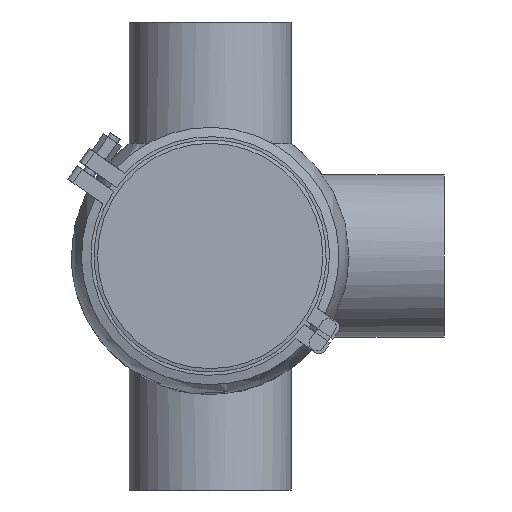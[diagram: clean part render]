
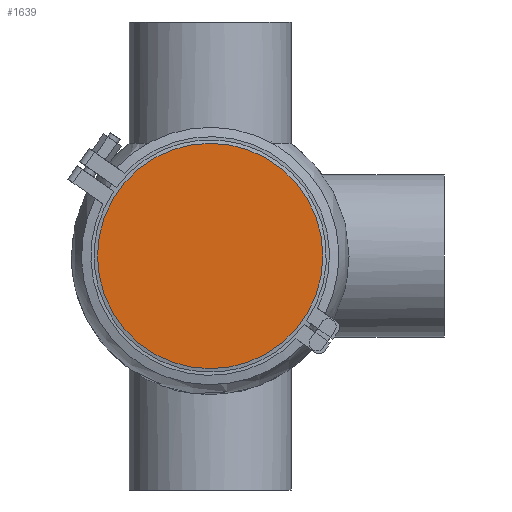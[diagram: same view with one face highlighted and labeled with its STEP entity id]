
A CAD part, front view. The second image highlights one B-rep face of the part: STEP entity #1639.
In plain terms, the highlighted planar face has unit normal (0, -1, 0).
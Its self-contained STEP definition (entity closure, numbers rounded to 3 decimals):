
#232 = DIRECTION ( 'NONE',  ( 0., -1., 0. ) ) ;
#337 = DIRECTION ( 'NONE',  ( 0., 0., -1. ) ) ;
#1639 = ADVANCED_FACE ( 'NONE', ( #15395 ), #20381, .T. ) ;
#2853 = EDGE_LOOP ( 'NONE', ( #20189 ) ) ;
#7805 = DIRECTION ( 'NONE',  ( 0., 0., 1. ) ) ;
#9387 = AXIS2_PLACEMENT_3D ( 'NONE', #9651, #11380, #7805 ) ;
#9651 = CARTESIAN_POINT ( 'NONE',  ( 0., 0., 0. ) ) ;
#11380 = DIRECTION ( 'NONE',  ( 0., 1., 0. ) ) ;
#12606 = EDGE_CURVE ( 'NONE', #15195, #15195, #19070, .T. ) ;
#13772 = CARTESIAN_POINT ( 'NONE',  ( -72.25, 0., 0. ) ) ;
#15101 = AXIS2_PLACEMENT_3D ( 'NONE', #13772, #232, #337 ) ;
#15195 = VERTEX_POINT ( 'NONE', #20278 ) ;
#15395 = FACE_OUTER_BOUND ( 'NONE', #2853, .T. ) ;
#19070 = CIRCLE ( 'NONE', #9387, 72.25 ) ;
#20189 = ORIENTED_EDGE ( 'NONE', *, *, #12606, .F. ) ;
#20278 = CARTESIAN_POINT ( 'NONE',  ( 0., 0., 72.25 ) ) ;
#20381 = PLANE ( 'NONE',  #15101 ) ;
